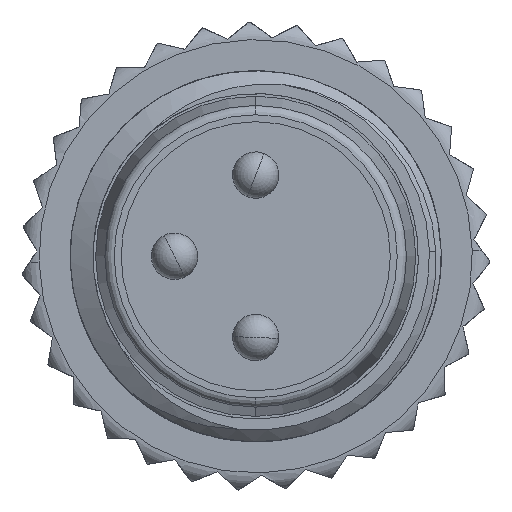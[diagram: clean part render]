
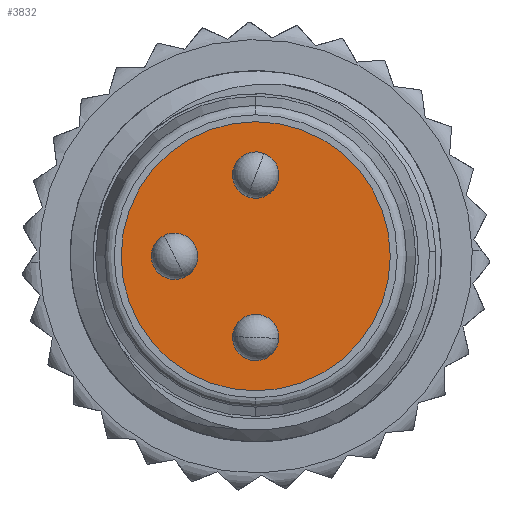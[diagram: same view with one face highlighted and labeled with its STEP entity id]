
A CAD part, left-side view. The second image highlights one B-rep face of the part: STEP entity #3832.
In plain terms, the highlighted planar face has unit normal (-1, 0, 0).
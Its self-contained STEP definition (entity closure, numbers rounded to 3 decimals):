
#54 = VERTEX_POINT ( 'NONE', #4931 ) ;
#119 = DIRECTION ( 'NONE',  ( 0., 0., -1. ) ) ;
#146 = AXIS2_PLACEMENT_3D ( 'NONE', #8451, #1667, #4669 ) ;
#233 = EDGE_CURVE ( 'NONE', #3021, #54, #2158, .T. ) ;
#327 = EDGE_CURVE ( 'NONE', #9146, #7347, #7811, .T. ) ;
#457 = DIRECTION ( 'NONE',  ( -1., 0., 0. ) ) ;
#686 = DIRECTION ( 'NONE',  ( 0., 0., -1. ) ) ;
#811 = DIRECTION ( 'NONE',  ( 1., 0., 0. ) ) ;
#877 = CARTESIAN_POINT ( 'NONE',  ( 5., 1.75, 0. ) ) ;
#894 = DIRECTION ( 'NONE',  ( -1., 0., 0. ) ) ;
#1019 = ORIENTED_EDGE ( 'NONE', *, *, #5933, .T. ) ;
#1137 = FACE_BOUND ( 'NONE', #4758, .T. ) ;
#1220 = ORIENTED_EDGE ( 'NONE', *, *, #4370, .F. ) ;
#1350 = DIRECTION ( 'NONE',  ( 0., 0., 1. ) ) ;
#1667 = DIRECTION ( 'NONE',  ( -1., 0., 0. ) ) ;
#1857 = CARTESIAN_POINT ( 'NONE',  ( 5., 0., 1.75 ) ) ;
#2158 = CIRCLE ( 'NONE', #9120, 0.5 ) ;
#2232 = EDGE_LOOP ( 'NONE', ( #3194, #6876 ) ) ;
#2311 = ORIENTED_EDGE ( 'NONE', *, *, #6144, .F. ) ;
#2429 = CARTESIAN_POINT ( 'NONE',  ( 5., 0., 2.9 ) ) ;
#2443 = EDGE_LOOP ( 'NONE', ( #1019, #4320 ) ) ;
#2657 = EDGE_CURVE ( 'NONE', #4417, #3782, #5027, .T. ) ;
#2887 = AXIS2_PLACEMENT_3D ( 'NONE', #4246, #457, #9508 ) ;
#3021 = VERTEX_POINT ( 'NONE', #8347 ) ;
#3178 = DIRECTION ( 'NONE',  ( 0., 0., 1. ) ) ;
#3194 = ORIENTED_EDGE ( 'NONE', *, *, #9085, .F. ) ;
#3275 = DIRECTION ( 'NONE',  ( -1., 0., 0. ) ) ;
#3332 = CARTESIAN_POINT ( 'NONE',  ( 5., 0.181, 1.284 ) ) ;
#3723 = CARTESIAN_POINT ( 'NONE',  ( 5., 0., -1.75 ) ) ;
#3782 = VERTEX_POINT ( 'NONE', #5962 ) ;
#3832 = ADVANCED_FACE ( 'NONE', ( #7371, #1137, #4683, #3966 ), #9023, .F. ) ;
#3946 = CARTESIAN_POINT ( 'NONE',  ( 5., 0., 0. ) ) ;
#3966 = FACE_OUTER_BOUND ( 'NONE', #2443, .T. ) ;
#4246 = CARTESIAN_POINT ( 'NONE',  ( 5., 1.75, 0. ) ) ;
#4320 = ORIENTED_EDGE ( 'NONE', *, *, #327, .T. ) ;
#4330 = CIRCLE ( 'NONE', #7565, 0.5 ) ;
#4370 = EDGE_CURVE ( 'NONE', #8352, #8372, #4330, .T. ) ;
#4378 = CIRCLE ( 'NONE', #9362, 2.9 ) ;
#4417 = VERTEX_POINT ( 'NONE', #4915 ) ;
#4669 = DIRECTION ( 'NONE',  ( 0., 0., -1. ) ) ;
#4671 = DIRECTION ( 'NONE',  ( 0., 0., -1. ) ) ;
#4683 = FACE_BOUND ( 'NONE', #5687, .T. ) ;
#4758 = EDGE_LOOP ( 'NONE', ( #2311, #1220 ) ) ;
#4915 = CARTESIAN_POINT ( 'NONE',  ( 5., -0.5, -1.769 ) ) ;
#4931 = CARTESIAN_POINT ( 'NONE',  ( 5., 1.529, -0.448 ) ) ;
#5027 = CIRCLE ( 'NONE', #146, 0.5 ) ;
#5095 = AXIS2_PLACEMENT_3D ( 'NONE', #3723, #5193, #686 ) ;
#5102 = DIRECTION ( 'NONE',  ( -1., 0., 0. ) ) ;
#5146 = CIRCLE ( 'NONE', #2887, 0.5 ) ;
#5193 = DIRECTION ( 'NONE',  ( -1., 0., 0. ) ) ;
#5578 = AXIS2_PLACEMENT_3D ( 'NONE', #9184, #894, #119 ) ;
#5687 = EDGE_LOOP ( 'NONE', ( #9669, #6811 ) ) ;
#5933 = EDGE_CURVE ( 'NONE', #7347, #9146, #4378, .T. ) ;
#5962 = CARTESIAN_POINT ( 'NONE',  ( 5., 0.5, -1.731 ) ) ;
#6093 = DIRECTION ( 'NONE',  ( 0., 0., -1. ) ) ;
#6144 = EDGE_CURVE ( 'NONE', #8372, #8352, #6941, .T. ) ;
#6275 = CARTESIAN_POINT ( 'NONE',  ( 5., 0., 0. ) ) ;
#6733 = EDGE_CURVE ( 'NONE', #3782, #4417, #9300, .T. ) ;
#6811 = ORIENTED_EDGE ( 'NONE', *, *, #2657, .F. ) ;
#6876 = ORIENTED_EDGE ( 'NONE', *, *, #233, .F. ) ;
#6941 = CIRCLE ( 'NONE', #5578, 0.5 ) ;
#7347 = VERTEX_POINT ( 'NONE', #2429 ) ;
#7371 = FACE_BOUND ( 'NONE', #2232, .T. ) ;
#7565 = AXIS2_PLACEMENT_3D ( 'NONE', #1857, #7874, #7837 ) ;
#7728 = AXIS2_PLACEMENT_3D ( 'NONE', #6275, #3275, #3178 ) ;
#7811 = CIRCLE ( 'NONE', #7728, 2.9 ) ;
#7837 = DIRECTION ( 'NONE',  ( 0., 0., -1. ) ) ;
#7874 = DIRECTION ( 'NONE',  ( -1., 0., 0. ) ) ;
#7933 = CARTESIAN_POINT ( 'NONE',  ( 5., -0.181, 2.216 ) ) ;
#8347 = CARTESIAN_POINT ( 'NONE',  ( 5., 1.971, 0.448 ) ) ;
#8352 = VERTEX_POINT ( 'NONE', #3332 ) ;
#8372 = VERTEX_POINT ( 'NONE', #7933 ) ;
#8451 = CARTESIAN_POINT ( 'NONE',  ( 5., 0., -1.75 ) ) ;
#8486 = AXIS2_PLACEMENT_3D ( 'NONE', #3946, #811, #4671 ) ;
#8849 = CARTESIAN_POINT ( 'NONE',  ( 5., 0., 0. ) ) ;
#9023 = PLANE ( 'NONE',  #8486 ) ;
#9085 = EDGE_CURVE ( 'NONE', #54, #3021, #5146, .T. ) ;
#9120 = AXIS2_PLACEMENT_3D ( 'NONE', #877, #9132, #6093 ) ;
#9132 = DIRECTION ( 'NONE',  ( -1., 0., 0. ) ) ;
#9146 = VERTEX_POINT ( 'NONE', #9438 ) ;
#9184 = CARTESIAN_POINT ( 'NONE',  ( 5., 0., 1.75 ) ) ;
#9300 = CIRCLE ( 'NONE', #5095, 0.5 ) ;
#9362 = AXIS2_PLACEMENT_3D ( 'NONE', #8849, #5102, #1350 ) ;
#9438 = CARTESIAN_POINT ( 'NONE',  ( 5., 0., -2.9 ) ) ;
#9508 = DIRECTION ( 'NONE',  ( 0., 0., -1. ) ) ;
#9669 = ORIENTED_EDGE ( 'NONE', *, *, #6733, .F. ) ;
